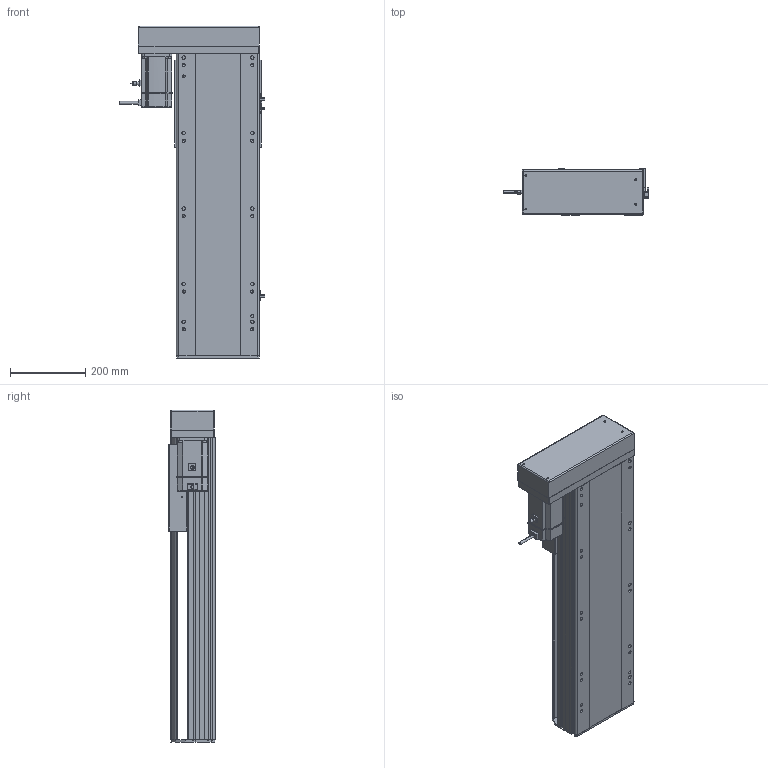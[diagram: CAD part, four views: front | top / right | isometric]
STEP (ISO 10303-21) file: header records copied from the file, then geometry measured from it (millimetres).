
FILE_DESCRIPTION (( 'STEP AP214' ), '1' );
FILE_NAME ('RTH22-XX-500-R-M75-C4.STEP', '2025-10-25T03:09:29', ( 'Microsoft' ), ( 'Microsoft' ), 'SwSTEP 2.0', 'SolidWorks 2018', '' );
FILE_SCHEMA (( 'AUTOMOTIVE_DESIGN' ));
Length unit declared in the file: millimetre
Products named in the file (10): N_RTH22-GY-013外置感应片^RTH22-XX-XX-R-M75-C4; N_RTH22-L-018裔赽^RTH22-XX-XX-R-M75-C4; RTH22-XX-500-R-M75-C4; N_RTH22-L-004-SFS25賑釱^RTH22-XX-XX-R-M75-C4; N_750W萇儂^RTH22-XX-XX-R-M75-C4; N_RTH22-R-008-P75萇儂啣^RTH22-XX-XX-R-M75-C4; N_RTH22-GY-001耜裔^RTH22-XX-XX-R-M75-C4; N_OMRON EE-SX672 传感器^RTH22-XX-XX-R-M75-C4; N_RTH22-L-011菁釱^RTH22-XX-XX-R-M75-C4; N_RTH22-L-007奻裔^RTH22-XX-XX-R-M75-C4
Assembly tree (11 placements, depth 2):
  RTH22-XX-500-R-M75-C4
    N_RTH22-L-011菁釱^RTH22-XX-XX-R-M75-C4
    N_RTH22-GY-001耜裔^RTH22-XX-XX-R-M75-C4
    N_750W萇儂^RTH22-XX-XX-R-M75-C4
    N_RTH22-R-008-P75萇儂啣^RTH22-XX-XX-R-M75-C4
    N_RTH22-L-007奻裔^RTH22-XX-XX-R-M75-C4
    N_OMRON EE-SX672 传感器^RTH22-XX-XX-R-M75-C4  x3
    N_RTH22-GY-013外置感应片^RTH22-XX-XX-R-M75-C4
    N_RTH22-L-004-SFS25賑釱^RTH22-XX-XX-R-M75-C4
    N_RTH22-L-018裔赽^RTH22-XX-XX-R-M75-C4
Bounding box: 384.7 x 122 x 879.7 mm (x, y, z)
Volume: 13083171.1 mm3; surface area: 1537177.8 mm2
Topology: 11 solids, 11 shells, 1556 faces, 4247 edges, 2743 vertices
Faces by surface type: plane 789, cylinder 438, bspline 279, cone 50
Entity records: 38651 total; most frequent: CARTESIAN_POINT 11906, ORIENTED_EDGE 5486, DIRECTION 5129, EDGE_CURVE 2743, VERTEX_POINT 1779, VECTOR 1717, LINE 1717, AXIS2_PLACEMENT_3D 1706
